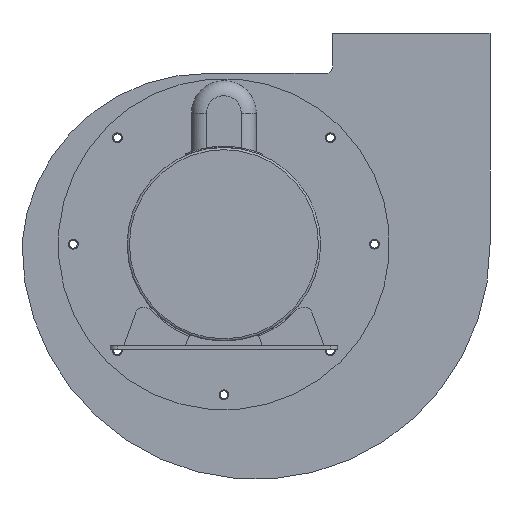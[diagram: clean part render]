
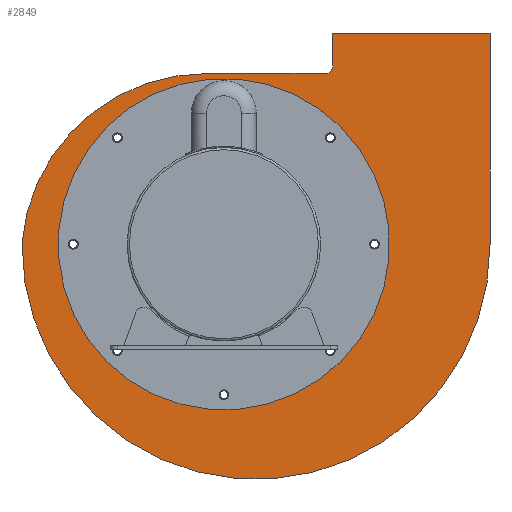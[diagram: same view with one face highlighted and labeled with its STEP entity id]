
A CAD part, left-side view. The second image highlights one B-rep face of the part: STEP entity #2849.
In plain terms, the highlighted planar face has unit normal (-1, 0, 0).
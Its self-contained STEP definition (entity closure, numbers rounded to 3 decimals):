
#148=CIRCLE('',#3061,155.383);
#150=CIRCLE('',#3064,122.902);
#152=CIRCLE('',#3068,2.6);
#154=CIRCLE('',#3071,2.6);
#156=CIRCLE('',#3074,2.6);
#158=CIRCLE('',#3077,2.6);
#160=CIRCLE('',#3080,2.6);
#162=CIRCLE('',#3083,2.6);
#164=CIRCLE('',#3086,2.6);
#166=CIRCLE('',#3089,2.6);
#168=CIRCLE('',#3092,65.);
#169=CIRCLE('',#3094,5.);
#387=ORIENTED_EDGE('',*,*,#1168,.T.);
#388=ORIENTED_EDGE('',*,*,#1166,.T.);
#389=ORIENTED_EDGE('',*,*,#1164,.T.);
#390=ORIENTED_EDGE('',*,*,#1162,.T.);
#391=ORIENTED_EDGE('',*,*,#1160,.T.);
#392=ORIENTED_EDGE('',*,*,#1158,.T.);
#393=ORIENTED_EDGE('',*,*,#1156,.T.);
#394=ORIENTED_EDGE('',*,*,#1154,.T.);
#395=ORIENTED_EDGE('',*,*,#1152,.T.);
#396=ORIENTED_EDGE('',*,*,#1137,.F.);
#397=ORIENTED_EDGE('',*,*,#1169,.F.);
#398=ORIENTED_EDGE('',*,*,#1149,.F.);
#399=ORIENTED_EDGE('',*,*,#1146,.F.);
#400=ORIENTED_EDGE('',*,*,#1143,.F.);
#401=ORIENTED_EDGE('',*,*,#1140,.F.);
#402=ORIENTED_EDGE('',*,*,#1127,.F.);
#1127=EDGE_CURVE('',#1527,#1528,#1810,.T.);
#1137=EDGE_CURVE('',#1537,#1527,#1818,.T.);
#1140=EDGE_CURVE('',#1528,#1539,#1821,.T.);
#1143=EDGE_CURVE('',#1539,#1541,#148,.T.);
#1146=EDGE_CURVE('',#1541,#1543,#150,.T.);
#1149=EDGE_CURVE('',#1543,#1545,#1826,.T.);
#1152=EDGE_CURVE('',#1547,#1547,#152,.T.);
#1154=EDGE_CURVE('',#1549,#1549,#154,.T.);
#1156=EDGE_CURVE('',#1551,#1551,#156,.T.);
#1158=EDGE_CURVE('',#1553,#1553,#158,.T.);
#1160=EDGE_CURVE('',#1555,#1555,#160,.T.);
#1162=EDGE_CURVE('',#1557,#1557,#162,.T.);
#1164=EDGE_CURVE('',#1559,#1559,#164,.T.);
#1166=EDGE_CURVE('',#1561,#1561,#166,.T.);
#1168=EDGE_CURVE('',#1563,#1563,#168,.T.);
#1169=EDGE_CURVE('',#1545,#1537,#169,.T.);
#1527=VERTEX_POINT('',#4321);
#1528=VERTEX_POINT('',#4322);
#1537=VERTEX_POINT('',#4343);
#1539=VERTEX_POINT('',#4349);
#1541=VERTEX_POINT('',#4355);
#1543=VERTEX_POINT('',#4361);
#1545=VERTEX_POINT('',#4367);
#1547=VERTEX_POINT('',#4373);
#1549=VERTEX_POINT('',#4378);
#1551=VERTEX_POINT('',#4383);
#1553=VERTEX_POINT('',#4388);
#1555=VERTEX_POINT('',#4393);
#1557=VERTEX_POINT('',#4398);
#1559=VERTEX_POINT('',#4403);
#1561=VERTEX_POINT('',#4408);
#1563=VERTEX_POINT('',#4413);
#1810=LINE('',#4320,#2016);
#1818=LINE('',#4342,#2024);
#1821=LINE('',#4348,#2027);
#1826=LINE('',#4366,#2032);
#2016=VECTOR('',#3410,1000.);
#2024=VECTOR('',#3426,1000.);
#2027=VECTOR('',#3431,1000.);
#2032=VECTOR('',#3450,1000.);
#2252=EDGE_LOOP('',(#387));
#2253=EDGE_LOOP('',(#388));
#2254=EDGE_LOOP('',(#389));
#2255=EDGE_LOOP('',(#390));
#2256=EDGE_LOOP('',(#391));
#2257=EDGE_LOOP('',(#392));
#2258=EDGE_LOOP('',(#393));
#2259=EDGE_LOOP('',(#394));
#2260=EDGE_LOOP('',(#395));
#2261=EDGE_LOOP('',(#396,#397,#398,#399,#400,#401,#402));
#2521=FACE_BOUND('',#2252,.T.);
#2522=FACE_BOUND('',#2253,.T.);
#2523=FACE_BOUND('',#2254,.T.);
#2524=FACE_BOUND('',#2255,.T.);
#2525=FACE_BOUND('',#2256,.T.);
#2526=FACE_BOUND('',#2257,.T.);
#2527=FACE_BOUND('',#2258,.T.);
#2528=FACE_BOUND('',#2259,.T.);
#2529=FACE_BOUND('',#2260,.T.);
#2530=FACE_BOUND('',#2261,.T.);
#2766=PLANE('',#3098);
#2849=ADVANCED_FACE('',(#2521,#2522,#2523,#2524,#2525,#2526,#2527,#2528,
#2529,#2530),#2766,.F.);
#3061=AXIS2_PLACEMENT_3D('',#4354,#3436,#3437);
#3064=AXIS2_PLACEMENT_3D('',#4360,#3443,#3444);
#3068=AXIS2_PLACEMENT_3D('',#4372,#3455,#3456);
#3071=AXIS2_PLACEMENT_3D('',#4377,#3461,#3462);
#3074=AXIS2_PLACEMENT_3D('',#4382,#3467,#3468);
#3077=AXIS2_PLACEMENT_3D('',#4387,#3473,#3474);
#3080=AXIS2_PLACEMENT_3D('',#4392,#3479,#3480);
#3083=AXIS2_PLACEMENT_3D('',#4397,#3485,#3486);
#3086=AXIS2_PLACEMENT_3D('',#4402,#3491,#3492);
#3089=AXIS2_PLACEMENT_3D('',#4407,#3497,#3498);
#3092=AXIS2_PLACEMENT_3D('',#4412,#3503,#3504);
#3094=AXIS2_PLACEMENT_3D('',#4415,#3507,#3508);
#3098=AXIS2_PLACEMENT_3D('',#4420,#3515,#3516);
#3410=DIRECTION('',(0.,-1.,0.));
#3426=DIRECTION('',(0.,0.,1.));
#3431=DIRECTION('',(0.,0.,-1.));
#3436=DIRECTION('',(1.,0.,0.));
#3437=DIRECTION('',(0.,0.,1.));
#3443=DIRECTION('',(1.,0.,0.));
#3444=DIRECTION('',(0.,1.,0.));
#3450=DIRECTION('',(0.,-1.,0.));
#3455=DIRECTION('',(1.,0.,0.));
#3456=DIRECTION('',(0.,1.,0.));
#3461=DIRECTION('',(1.,0.,0.));
#3462=DIRECTION('',(0.,1.,0.));
#3467=DIRECTION('',(1.,0.,0.));
#3468=DIRECTION('',(0.,1.,0.));
#3473=DIRECTION('',(1.,0.,0.));
#3474=DIRECTION('',(0.,1.,0.));
#3479=DIRECTION('',(1.,0.,0.));
#3480=DIRECTION('',(0.,1.,0.));
#3485=DIRECTION('',(1.,0.,0.));
#3486=DIRECTION('',(0.,1.,0.));
#3491=DIRECTION('',(1.,0.,0.));
#3492=DIRECTION('',(0.,1.,0.));
#3497=DIRECTION('',(1.,0.,0.));
#3498=DIRECTION('',(0.,1.,0.));
#3503=DIRECTION('',(1.,0.,0.));
#3504=DIRECTION('',(0.,1.,0.));
#3507=DIRECTION('',(-1.,0.,0.));
#3508=DIRECTION('',(0.,1.,0.));
#3515=DIRECTION('',(1.,0.,0.));
#3516=DIRECTION('',(0.,1.,0.));
#4320=CARTESIAN_POINT('',(-36.5,-72.3,140.));
#4321=CARTESIAN_POINT('',(-36.5,-72.3,140.));
#4322=CARTESIAN_POINT('',(-36.5,-176.7,140.));
#4342=CARTESIAN_POINT('',(-36.5,-72.3,118.365));
#4343=CARTESIAN_POINT('',(-36.5,-72.3,118.365));
#4348=CARTESIAN_POINT('',(-36.5,-176.7,140.));
#4349=CARTESIAN_POINT('',(-36.5,-176.7,-0.066));
#4354=CARTESIAN_POINT('',(-36.5,-21.319,-0.731));
#4355=CARTESIAN_POINT('',(-36.5,134.051,1.263));
#4360=CARTESIAN_POINT('',(-36.5,11.624,-9.536));
#4361=CARTESIAN_POINT('',(-36.5,11.662,113.365));
#4366=CARTESIAN_POINT('',(-36.5,11.662,113.365));
#4367=CARTESIAN_POINT('',(-36.5,-67.3,113.365));
#4372=CARTESIAN_POINT('',(-36.5,-70.711,70.711));
#4373=CARTESIAN_POINT('',(-36.5,-68.111,70.711));
#4377=CARTESIAN_POINT('',(-36.5,0.,100.));
#4378=CARTESIAN_POINT('',(-36.5,2.6,100.));
#4382=CARTESIAN_POINT('',(-36.5,70.711,70.711));
#4383=CARTESIAN_POINT('',(-36.5,73.311,70.711));
#4387=CARTESIAN_POINT('',(-36.5,100.,0.));
#4388=CARTESIAN_POINT('',(-36.5,102.6,0.));
#4392=CARTESIAN_POINT('',(-36.5,70.711,-70.711));
#4393=CARTESIAN_POINT('',(-36.5,73.311,-70.711));
#4397=CARTESIAN_POINT('',(-36.5,0.,-100.));
#4398=CARTESIAN_POINT('',(-36.5,2.6,-100.));
#4402=CARTESIAN_POINT('',(-36.5,-70.711,-70.711));
#4403=CARTESIAN_POINT('',(-36.5,-68.111,-70.711));
#4407=CARTESIAN_POINT('',(-36.5,-100.,0.));
#4408=CARTESIAN_POINT('',(-36.5,-97.4,0.));
#4412=CARTESIAN_POINT('',(-36.5,0.,0.));
#4413=CARTESIAN_POINT('',(-36.5,65.,0.));
#4415=CARTESIAN_POINT('',(-36.5,-67.3,118.365));
#4420=CARTESIAN_POINT('',(-36.5,-21.319,-0.731));
